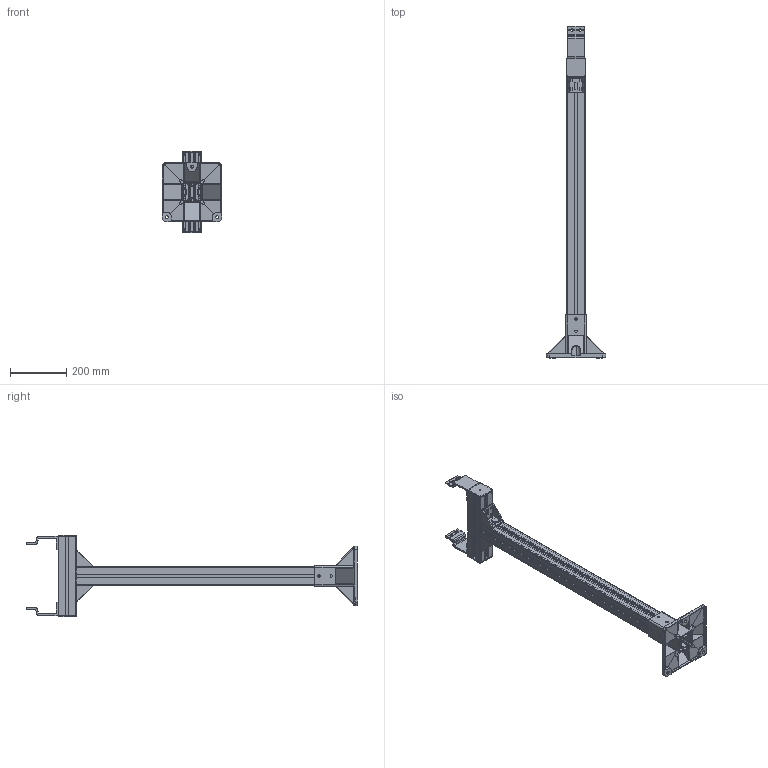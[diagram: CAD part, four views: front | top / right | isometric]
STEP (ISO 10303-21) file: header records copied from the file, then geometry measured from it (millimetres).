
FILE_DESCRIPTION (( 'STEP AP214' ), '1' );
FILE_NAME ('F2-750-PC64.STEP', '2011-04-13T11:28:11', ( '.' ), ( '' ), 'SwSTEP 2.0', 'SolidWorks 2010', '' );
FILE_SCHEMA (( 'AUTOMOTIVE_DESIGN' ));
Length unit declared in the file: millimetre
Products named in the file (7): TC64-PC64_Tube vertical; TC64-PC64_F2-750-PC64; EC210-64-PC64; FAHBS-60-PC64_Default; FBFA 58B-PC64; FBEC-64-PC64_Default; F2-750-PC64
Assembly tree (9 placements, depth 2):
  F2-750-PC64
    EC210-64-PC64
    TC64-PC64_Tube vertical
    FBFA 58B-PC64  x2
    FBEC-64-PC64_Default  x2
    FAHBS-60-PC64_Default  x2
    TC64-PC64_F2-750-PC64
Bounding box: 210 x 1178 x 289 mm (x, y, z)
Volume: 1614877.7 mm3; surface area: 1295654.6 mm2
Topology: 9 solids, 9 shells, 1659 faces, 4644 edges, 3050 vertices
Faces by surface type: plane 896, cylinder 624, bspline 123, sphere 8, cone 4, torus 4
Entity records: 42027 total; most frequent: CARTESIAN_POINT 10635, ORIENTED_EDGE 6404, DIRECTION 5967, EDGE_CURVE 3202, VERTEX_POINT 2096, LINE 2091, VECTOR 2091, AXIS2_PLACEMENT_3D 1938
